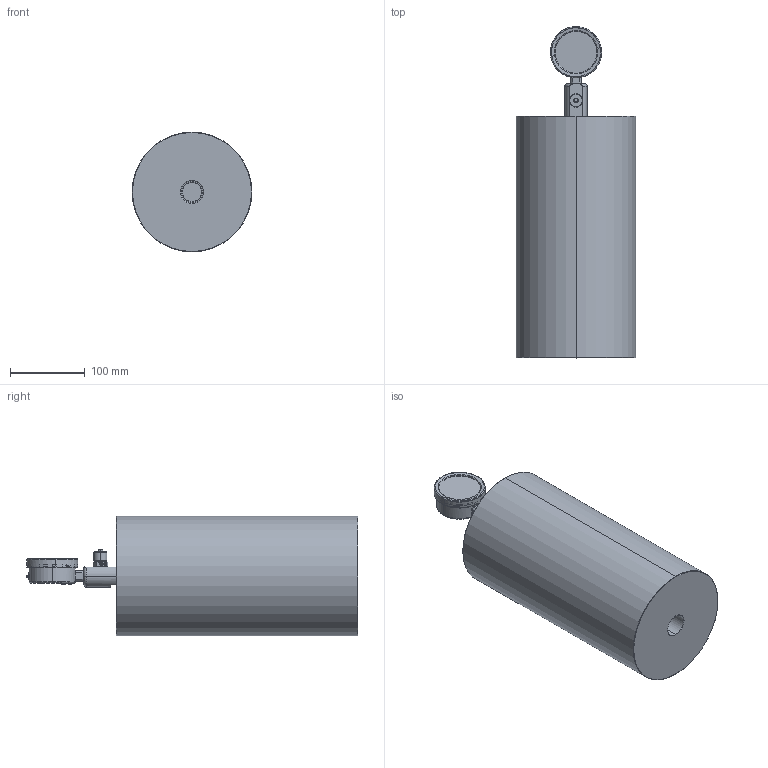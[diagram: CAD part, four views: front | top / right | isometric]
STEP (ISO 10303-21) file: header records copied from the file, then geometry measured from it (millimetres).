
FILE_DESCRIPTION (( 'STEP AP214' ), '1' );
FILE_NAME ('U030A01X1-PC (DGA).STEP', '2025-04-10T09:21:36', ( '' ), ( '' ), 'SwSTEP 2.0', 'SolidWorks 2024', '' );
FILE_SCHEMA (( 'AUTOMOTIVE_DESIGN' ));
Length unit declared in the file: millimetre
Products named in the file (1): U030A01X1-PC (DGA)
Bounding box: 160 x 443.4 x 160 mm (x, y, z)
Surface area: 298220.1 mm2 (no closed solid volume)
Topology: 0 solids, 21 shells, 848 faces, 2711 edges, 1826 vertices
Faces by surface type: plane 309, cylinder 190, bspline 187, cone 84, torus 68, sphere 10
Entity records: 62709 total; most frequent: CARTESIAN_POINT 31667, ORIENTED_EDGE 4622, DIRECTION 3787, EDGE_CURVE 2707, VERTEX_POINT 1826, LINE 1397, VECTOR 1397, AXIS2_PLACEMENT_3D 1195
